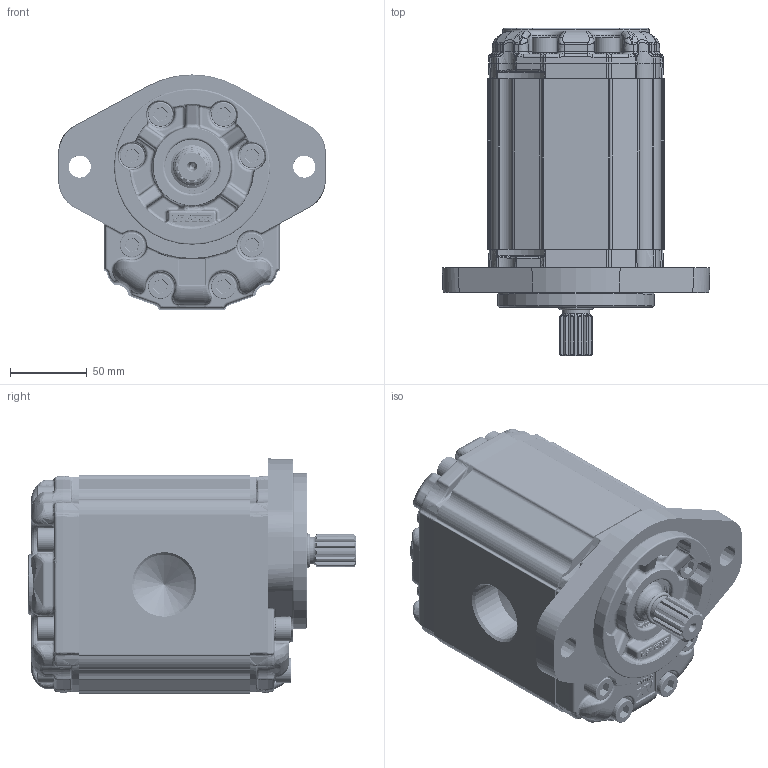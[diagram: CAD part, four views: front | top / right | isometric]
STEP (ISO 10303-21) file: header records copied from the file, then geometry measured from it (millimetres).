
FILE_DESCRIPTION(/* description */ ('Unknown'),/* implementation_level */ '2;1');
FILE_NAME(/* name */ 'X3R8631IFFF',/* time_stamp */ '2026-06-04T19:26:21+02:00',/* author */ ('Unknown'),/* organization */ ('Unknown'),/* preprocessor_version */ 'ST-DEVELOPER v16.7',/* originating_system */ 'Solid Edge',/* authorisation */ 'Unknown');
FILE_SCHEMA (('AUTOMOTIVE_DESIGN {1 0 10303 214 3 1 1}'));
Products named in the file (5): X3R8631IFFF; X3R31; 3I; X3FFH111; XR331-F
Assembly tree (4 placements, depth 2):
  X3R8631IFFF
    X3R31
    3I
    X3FFH111
    XR331-F
Bounding box: 174 x 213.2 x 153 mm (x, y, z)
Volume: 2438467.4 mm3; surface area: 236533.9 mm2
Topology: 4 solids, 5 shells, 4677 faces, 14253 edges, 8882 vertices
Faces by surface type: cylinder 1835, plane 1254, bspline 1245, torus 172, cone 145, sphere 26
Full cylindrical faces by diameter (mm): 2 x2, 10 x16, 10.35 x30, 10.5 x1, 14.314 x1, 14.315 x1, 15.8 x16, 16 x16, 18 x2, 24.98 x1, 25 x2, 25.968 x1, 28.16 x1, 31 x1, 31.293 x1, 32.742 x1, 34.956 x1, 35 x1, 35.2 x1, 37 x1, 38.952 x2, 101.6 x1
Entity records: 346319 total; most frequent: CARTESIAN_POINT 199022, ORIENTED_EDGE 27592, DIRECTION 19640, EDGE_CURVE 13796, VERTEX_POINT 8742, AXIS2_PLACEMENT_3D 7440, FACE_BOUND 5106, EDGE_LOOP 5102
